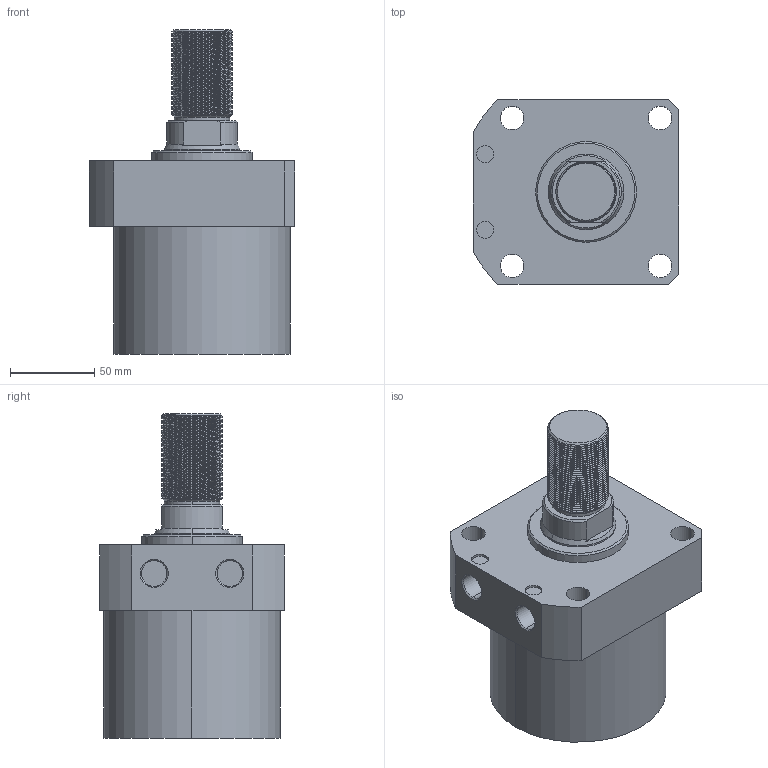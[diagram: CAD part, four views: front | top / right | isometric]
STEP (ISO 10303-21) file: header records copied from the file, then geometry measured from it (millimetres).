
FILE_DESCRIPTION (( 'STEP AP214' ), '1' );
FILE_NAME ('CLLR-105CT-055.STEP', '2020-01-09T07:56:55', ( 'Windows' ), ( 'Microsoft' ), 'SwSTEP 2.0', 'SolidWorks 2015', '' );
FILE_SCHEMA (( 'AUTOMOTIVE_DESIGN' ));
Length unit declared in the file: millimetre
Products named in the file (1): CLLR-105CT-055
Bounding box: 122 x 110 x 193 mm (x, y, z)
Volume: 1231139.4 mm3; surface area: 89232.3 mm2
Topology: 1 solids, 1 shells, 135 faces, 362 edges, 237 vertices
Faces by surface type: cylinder 97, plane 20, cone 16, bspline 2
Entity records: 7903 total; most frequent: CARTESIAN_POINT 4844, ORIENTED_EDGE 724, DIRECTION 556, EDGE_CURVE 362, VERTEX_POINT 237, AXIS2_PLACEMENT_3D 211, EDGE_LOOP 151, FACE_OUTER_BOUND 135
